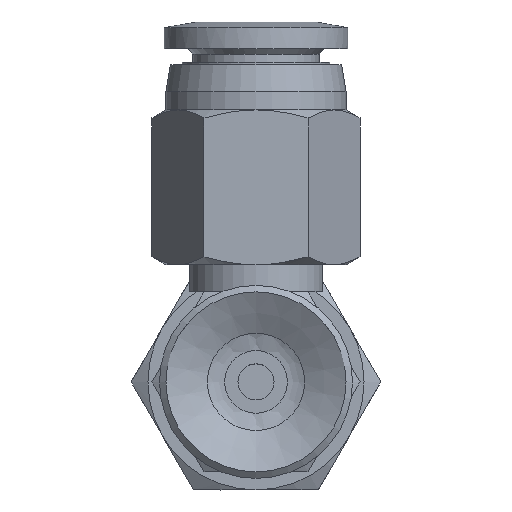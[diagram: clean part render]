
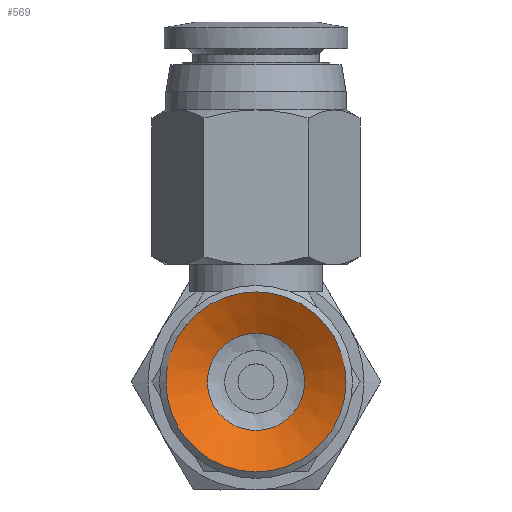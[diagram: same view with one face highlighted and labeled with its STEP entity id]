
A CAD part, front view. The second image highlights one B-rep face of the part: STEP entity #569.
In plain terms, the highlighted conical face has half-angle 61.39 degrees and reference radius 2.25 mm.
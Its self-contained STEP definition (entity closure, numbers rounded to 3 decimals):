
#569=ADVANCED_FACE('',(#903,#904),#905,.F.);
#903=FACE_BOUND('',#1314,.T.);
#904=FACE_OUTER_BOUND('',#1315,.T.);
#905=CONICAL_SURFACE('',#1316,2.25,1.071);
#1314=EDGE_LOOP('',(#2449));
#1315=EDGE_LOOP('',(#2450));
#1316=AXIS2_PLACEMENT_3D('',#2451,#2452,#2453);
#2449=ORIENTED_EDGE('',*,*,#2973,.T.);
#2450=ORIENTED_EDGE('',*,*,#2968,.T.);
#2451=CARTESIAN_POINT('',(0.0,1.5,0.0));
#2452=DIRECTION('',(-0.0,-1.0,0.));
#2453=DIRECTION('',(0.0,0.,-1.0));
#2968=EDGE_CURVE('',#3404,#3404,#3405,.T.);
#2973=EDGE_CURVE('',#3414,#3414,#3415,.T.);
#3404=VERTEX_POINT('',#4330);
#3405=CIRCLE('',#4331,5.);
#3414=VERTEX_POINT('',#4340);
#3415=CIRCLE('',#4341,2.698);
#4330=CARTESIAN_POINT('',(0.0,0.,-5.));
#4331=AXIS2_PLACEMENT_3D('',#5101,#5102,#5103);
#4340=CARTESIAN_POINT('',(0.0,1.256,-2.698));
#4341=AXIS2_PLACEMENT_3D('',#5116,#5117,#5118);
#5101=CARTESIAN_POINT('',(0.0,0.0,0.0));
#5102=DIRECTION('',(0.0,-1.0,0.));
#5103=DIRECTION('',(0.0,0.,-1.0));
#5116=CARTESIAN_POINT('',(0.0,1.256,0.0));
#5117=DIRECTION('',(0.0,1.0,0.));
#5118=DIRECTION('',(0.0,0.,-1.0));
